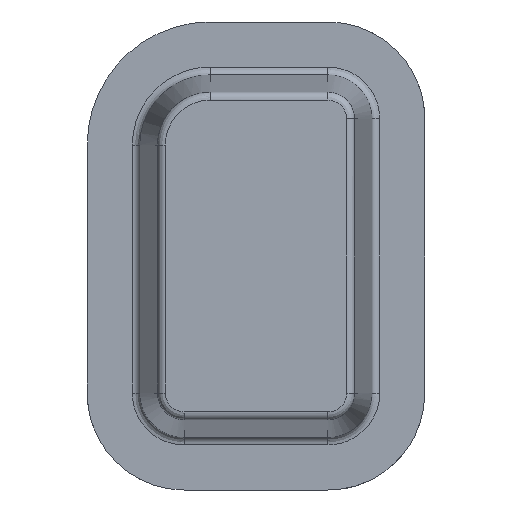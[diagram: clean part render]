
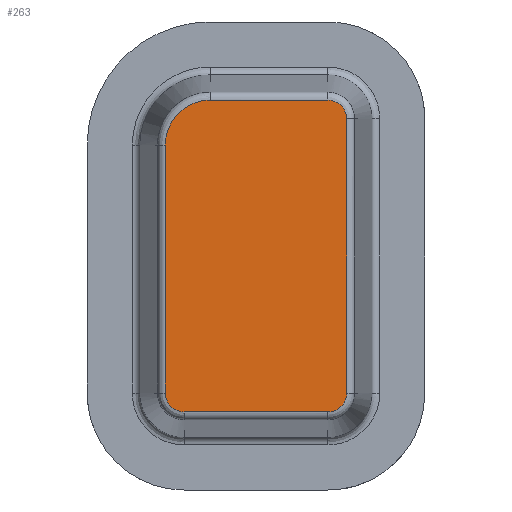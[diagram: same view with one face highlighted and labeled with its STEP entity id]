
A CAD part, front view. The second image highlights one B-rep face of the part: STEP entity #263.
In plain terms, the highlighted planar face has unit normal (0, -1, 0).
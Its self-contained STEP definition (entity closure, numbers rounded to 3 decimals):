
#144=CARTESIAN_POINT('Axis2P3D Location',(38.58,0.,61.42)) ;
#149=CARTESIAN_POINT('Line Origine',(2.749,0.,57.5)) ;
#153=CARTESIAN_POINT('Vertex',(2.749,0.,105.)) ;
#155=CARTESIAN_POINT('Vertex',(2.749,0.,10.)) ;
#159=CARTESIAN_POINT('Control Point',(2.749,0.,10.)) ;
#160=CARTESIAN_POINT('Control Point',(2.749,0.,9.039)) ;
#161=CARTESIAN_POINT('Control Point',(2.908,0.,8.077)) ;
#162=CARTESIAN_POINT('Control Point',(3.227,0.,7.153)) ;
#163=CARTESIAN_POINT('Control Point',(4.157,0.,5.444)) ;
#164=CARTESIAN_POINT('Control Point',(5.587,0.,4.126)) ;
#165=CARTESIAN_POINT('Control Point',(6.406,0.,3.591)) ;
#166=CARTESIAN_POINT('Control Point',(7.615,0.,3.065)) ;
#167=CARTESIAN_POINT('Control Point',(8.896,0.,2.821)) ;
#168=CARTESIAN_POINT('Control Point',(9.235,0.,2.777)) ;
#169=CARTESIAN_POINT('Control Point',(9.592,0.,2.752)) ;
#170=CARTESIAN_POINT('Control Point',(9.95,0.,2.749)) ;
#171=CARTESIAN_POINT('Control Point',(9.966,0.,2.749)) ;
#172=CARTESIAN_POINT('Control Point',(9.983,0.,2.749)) ;
#173=CARTESIAN_POINT('Control Point',(10.,0.,2.749)) ;
#174=CARTESIAN_POINT('Vertex',(10.,0.,2.749)) ;
#177=CARTESIAN_POINT('Line Origine',(37.5,0.,2.749)) ;
#181=CARTESIAN_POINT('Vertex',(65.,0.,2.749)) ;
#185=CARTESIAN_POINT('Control Point',(65.,0.,2.749)) ;
#186=CARTESIAN_POINT('Control Point',(65.961,0.,2.749)) ;
#187=CARTESIAN_POINT('Control Point',(66.923,0.,2.908)) ;
#188=CARTESIAN_POINT('Control Point',(67.847,0.,3.227)) ;
#189=CARTESIAN_POINT('Control Point',(69.556,0.,4.157)) ;
#190=CARTESIAN_POINT('Control Point',(70.874,0.,5.587)) ;
#191=CARTESIAN_POINT('Control Point',(71.409,0.,6.406)) ;
#192=CARTESIAN_POINT('Control Point',(71.935,0.,7.615)) ;
#193=CARTESIAN_POINT('Control Point',(72.179,0.,8.896)) ;
#194=CARTESIAN_POINT('Control Point',(72.223,0.,9.235)) ;
#195=CARTESIAN_POINT('Control Point',(72.248,0.,9.592)) ;
#196=CARTESIAN_POINT('Control Point',(72.251,0.,9.95)) ;
#197=CARTESIAN_POINT('Control Point',(72.251,0.,9.966)) ;
#198=CARTESIAN_POINT('Control Point',(72.251,0.,9.983)) ;
#199=CARTESIAN_POINT('Control Point',(72.251,0.,10.)) ;
#200=CARTESIAN_POINT('Vertex',(72.251,0.,10.)) ;
#203=CARTESIAN_POINT('Line Origine',(72.251,0.,62.5)) ;
#207=CARTESIAN_POINT('Vertex',(72.251,0.,115.)) ;
#211=CARTESIAN_POINT('Control Point',(72.251,0.,115.)) ;
#212=CARTESIAN_POINT('Control Point',(72.251,0.,115.961)) ;
#213=CARTESIAN_POINT('Control Point',(72.092,0.,116.923)) ;
#214=CARTESIAN_POINT('Control Point',(71.773,0.,117.847)) ;
#215=CARTESIAN_POINT('Control Point',(70.843,0.,119.556)) ;
#216=CARTESIAN_POINT('Control Point',(69.413,0.,120.874)) ;
#217=CARTESIAN_POINT('Control Point',(68.594,0.,121.409)) ;
#218=CARTESIAN_POINT('Control Point',(67.385,0.,121.935)) ;
#219=CARTESIAN_POINT('Control Point',(66.104,0.,122.179)) ;
#220=CARTESIAN_POINT('Control Point',(65.765,0.,122.223)) ;
#221=CARTESIAN_POINT('Control Point',(65.408,0.,122.248)) ;
#222=CARTESIAN_POINT('Control Point',(65.05,0.,122.251)) ;
#223=CARTESIAN_POINT('Control Point',(65.034,0.,122.251)) ;
#224=CARTESIAN_POINT('Control Point',(65.017,0.,122.251)) ;
#225=CARTESIAN_POINT('Control Point',(65.,0.,122.251)) ;
#226=CARTESIAN_POINT('Vertex',(65.,0.,122.251)) ;
#229=CARTESIAN_POINT('Line Origine',(42.5,0.,122.251)) ;
#233=CARTESIAN_POINT('Vertex',(20.,0.,122.251)) ;
#237=CARTESIAN_POINT('Control Point',(20.,0.,122.251)) ;
#238=CARTESIAN_POINT('Control Point',(18.077,0.,122.251)) ;
#239=CARTESIAN_POINT('Control Point',(16.154,0.,121.983)) ;
#240=CARTESIAN_POINT('Control Point',(14.282,0.,121.447)) ;
#241=CARTESIAN_POINT('Control Point',(10.737,0.,119.869)) ;
#242=CARTESIAN_POINT('Control Point',(7.758,0.,117.383)) ;
#243=CARTESIAN_POINT('Control Point',(6.452,0.,115.939)) ;
#244=CARTESIAN_POINT('Control Point',(4.494,0.,113.046)) ;
#245=CARTESIAN_POINT('Control Point',(3.314,0.,109.769)) ;
#246=CARTESIAN_POINT('Control Point',(2.954,0.,108.26)) ;
#247=CARTESIAN_POINT('Control Point',(2.762,0.,106.686)) ;
#248=CARTESIAN_POINT('Control Point',(2.749,0.,105.11)) ;
#249=CARTESIAN_POINT('Control Point',(2.749,0.,105.073)) ;
#250=CARTESIAN_POINT('Control Point',(2.749,0.,105.037)) ;
#251=CARTESIAN_POINT('Control Point',(2.749,0.,105.)) ;
#145=DIRECTION('Axis2P3D Direction',(0.,-1.,0.)) ;
#146=DIRECTION('Axis2P3D XDirection',(0.056,0.,0.998)) ;
#150=DIRECTION('Vector Direction',(0.,0.,1.)) ;
#178=DIRECTION('Vector Direction',(1.,0.,0.)) ;
#204=DIRECTION('Vector Direction',(0.,0.,1.)) ;
#230=DIRECTION('Vector Direction',(-1.,0.,0.)) ;
#147=AXIS2_PLACEMENT_3D('Plane Axis2P3D',#144,#145,#146) ;
#254=ORIENTED_EDGE('',*,*,#157,.T.) ;
#255=ORIENTED_EDGE('',*,*,#176,.T.) ;
#256=ORIENTED_EDGE('',*,*,#183,.T.) ;
#257=ORIENTED_EDGE('',*,*,#202,.T.) ;
#258=ORIENTED_EDGE('',*,*,#209,.T.) ;
#259=ORIENTED_EDGE('',*,*,#228,.T.) ;
#260=ORIENTED_EDGE('',*,*,#235,.T.) ;
#261=ORIENTED_EDGE('',*,*,#252,.T.) ;
#151=VECTOR('Line Direction',#150,1.) ;
#179=VECTOR('Line Direction',#178,1.) ;
#205=VECTOR('Line Direction',#204,1.) ;
#231=VECTOR('Line Direction',#230,1.) ;
#263=ADVANCED_FACE('base',(#262),#148,.T.) ;
#158=B_SPLINE_CURVE_WITH_KNOTS('',5,(#159,#160,#161,#162,#163,#164,#165,#166,#167,#168,#169,#170,#171,#172,#173),.UNSPECIFIED.,.F.,.U.,(6,3,3,3,6),(30.954,41.426,51.902,55.612,55.795),.UNSPECIFIED.) ;
#184=B_SPLINE_CURVE_WITH_KNOTS('',5,(#185,#186,#187,#188,#189,#190,#191,#192,#193,#194,#195,#196,#197,#198,#199),.UNSPECIFIED.,.F.,.U.,(6,3,3,3,6),(30.955,41.426,51.902,55.612,55.796),.UNSPECIFIED.) ;
#210=B_SPLINE_CURVE_WITH_KNOTS('',5,(#211,#212,#213,#214,#215,#216,#217,#218,#219,#220,#221,#222,#223,#224,#225),.UNSPECIFIED.,.F.,.U.,(6,3,3,3,6),(30.954,41.425,51.902,55.612,55.795),.UNSPECIFIED.) ;
#236=B_SPLINE_CURVE_WITH_KNOTS('',5,(#237,#238,#239,#240,#241,#242,#243,#244,#245,#246,#247,#248,#249,#250,#251),.UNSPECIFIED.,.F.,.U.,(6,3,3,3,6),(43.067,59.47,75.893,89.022,89.335),.UNSPECIFIED.) ;
#157=EDGE_CURVE('',#154,#156,#152,.F.) ;
#176=EDGE_CURVE('',#156,#175,#158,.T.) ;
#183=EDGE_CURVE('',#175,#182,#180,.T.) ;
#202=EDGE_CURVE('',#182,#201,#184,.T.) ;
#209=EDGE_CURVE('',#201,#208,#206,.T.) ;
#228=EDGE_CURVE('',#208,#227,#210,.T.) ;
#235=EDGE_CURVE('',#227,#234,#232,.T.) ;
#252=EDGE_CURVE('',#234,#154,#236,.T.) ;
#253=EDGE_LOOP('',(#254,#255,#256,#257,#258,#259,#260,#261)) ;
#262=FACE_OUTER_BOUND('',#253,.T.) ;
#152=LINE('Line',#149,#151) ;
#180=LINE('Line',#177,#179) ;
#206=LINE('Line',#203,#205) ;
#232=LINE('Line',#229,#231) ;
#148=PLANE('',#147) ;
#154=VERTEX_POINT('',#153) ;
#156=VERTEX_POINT('',#155) ;
#175=VERTEX_POINT('',#174) ;
#182=VERTEX_POINT('',#181) ;
#201=VERTEX_POINT('',#200) ;
#208=VERTEX_POINT('',#207) ;
#227=VERTEX_POINT('',#226) ;
#234=VERTEX_POINT('',#233) ;
